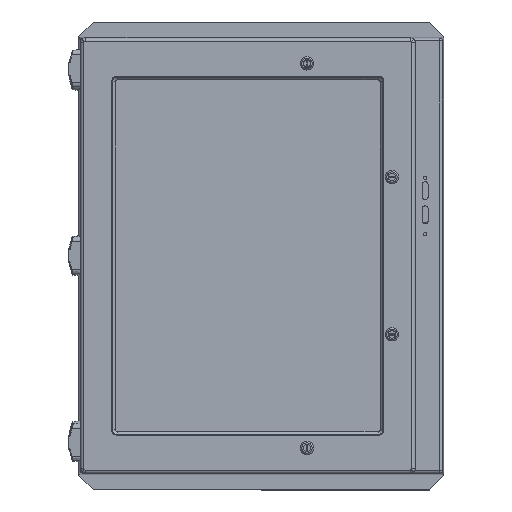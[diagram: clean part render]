
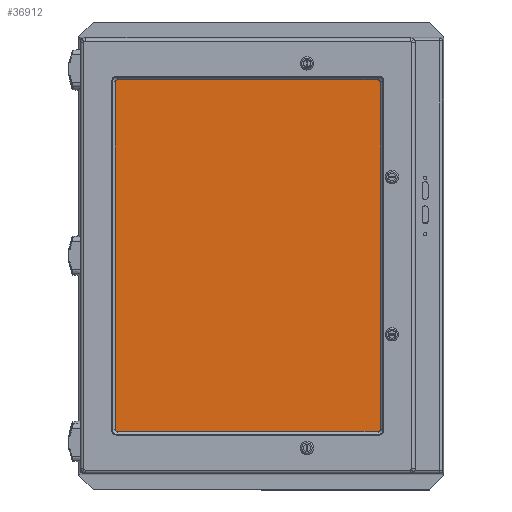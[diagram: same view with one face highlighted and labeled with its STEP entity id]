
A CAD part, top view. The second image highlights one B-rep face of the part: STEP entity #36912.
In plain terms, the highlighted planar face has unit normal (0, 0, 1).
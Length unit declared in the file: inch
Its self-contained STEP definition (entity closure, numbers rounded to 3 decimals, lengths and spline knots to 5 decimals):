
#21120 = DIRECTION ( 'NONE',  ( 0., -1., 0. ) ) ;
#21121 = VECTOR ( 'NONE', #21120, 39.37008 ) ;
#21122 = CARTESIAN_POINT ( 'NONE',  ( -11.03, -14.875, 1. ) ) ;
#21124 = LINE ( 'NONE', #21122, #21121 ) ;
#21125 = CARTESIAN_POINT ( 'NONE',  ( -11.03, -14.3863, 1. ) ) ;
#21214 = DIRECTION ( 'NONE',  ( -1., 0., 0. ) ) ;
#21215 = DIRECTION ( 'NONE',  ( 0., 0., -1. ) ) ;
#21216 = CARTESIAN_POINT ( 'NONE',  ( -11.25, 14.875, 1. ) ) ;
#21218 = AXIS2_PLACEMENT_3D ( 'NONE', #21216, #21215, #21214 ) ;
#21219 = PLANE ( 'NONE',  #21218 ) ;
#21220 = FACE_OUTER_BOUND ( 'NONE', #36913, .T. ) ;
#21221 = DIRECTION ( 'NONE',  ( 1., 0., 0. ) ) ;
#21223 = VECTOR ( 'NONE', #21221, 39.37008 ) ;
#21224 = CARTESIAN_POINT ( 'NONE',  ( -11.25, -14.655, 1. ) ) ;
#21225 = LINE ( 'NONE', #21224, #21223 ) ;
#21226 = CARTESIAN_POINT ( 'NONE',  ( 10.7613, -14.655, 1. ) ) ;
#21241 = CARTESIAN_POINT ( 'NONE',  ( 10.7613, 14.655, 1. ) ) ;
#21257 = DIRECTION ( 'NONE',  ( 0., 1., 0. ) ) ;
#21258 = VECTOR ( 'NONE', #21257, 39.37008 ) ;
#21259 = CARTESIAN_POINT ( 'NONE',  ( 11.03, -14.875, 1. ) ) ;
#21260 = LINE ( 'NONE', #21259, #21258 ) ;
#21261 = CARTESIAN_POINT ( 'NONE',  ( 11.03, 14.3863, 1. ) ) ;
#21273 = CARTESIAN_POINT ( 'NONE',  ( 11.03, -14.3863, 1. ) ) ;
#21280 = CARTESIAN_POINT ( 'NONE',  ( -11.03, 14.3863, 1. ) ) ;
#21291 = DIRECTION ( 'NONE',  ( -1., 0., 0. ) ) ;
#21292 = VECTOR ( 'NONE', #21291, 39.37008 ) ;
#21293 = CARTESIAN_POINT ( 'NONE',  ( -11.25, 14.655, 1. ) ) ;
#21294 = LINE ( 'NONE', #21293, #21292 ) ;
#21295 = CARTESIAN_POINT ( 'NONE',  ( -10.7613, 14.655, 1. ) ) ;
#21323 = CARTESIAN_POINT ( 'NONE',  ( -11.03, -14.3863, 1. ) ) ;
#21324 =( BOUNDED_CURVE ( )  B_SPLINE_CURVE ( 3, ( #21323, #21351, #21350, #21349 ),
 .UNSPECIFIED., .F., .T. ) 
 B_SPLINE_CURVE_WITH_KNOTS ( ( 4, 4 ),
 ( 2.61799, 3.66519 ),
 .UNSPECIFIED. ) 
 CURVE ( )  GEOMETRIC_REPRESENTATION_ITEM ( )  RATIONAL_B_SPLINE_CURVE ( ( 1., 0.911, 0.911, 1. ) ) 
 REPRESENTATION_ITEM ( '' )  );
#21337 = CARTESIAN_POINT ( 'NONE',  ( 10.7613, 14.655, 1. ) ) ;
#21338 = CARTESIAN_POINT ( 'NONE',  ( 10.93165, 14.655, 1. ) ) ;
#21339 = CARTESIAN_POINT ( 'NONE',  ( 11.03, 14.55665, 1. ) ) ;
#21341 = CARTESIAN_POINT ( 'NONE',  ( 11.03, 14.3863, 1. ) ) ;
#21342 =( BOUNDED_CURVE ( )  B_SPLINE_CURVE ( 3, ( #21341, #21339, #21338, #21337 ),
 .UNSPECIFIED., .F., .T. ) 
 B_SPLINE_CURVE_WITH_KNOTS ( ( 4, 4 ),
 ( 2.61799, 3.66519 ),
 .UNSPECIFIED. ) 
 CURVE ( )  GEOMETRIC_REPRESENTATION_ITEM ( )  RATIONAL_B_SPLINE_CURVE ( ( 1., 0.911, 0.911, 1. ) ) 
 REPRESENTATION_ITEM ( '' )  );
#21344 = CARTESIAN_POINT ( 'NONE',  ( 11.03, -14.3863, 1. ) ) ;
#21345 = CARTESIAN_POINT ( 'NONE',  ( 11.03, -14.55665, 1. ) ) ;
#21346 = CARTESIAN_POINT ( 'NONE',  ( 10.93165, -14.655, 1. ) ) ;
#21347 = CARTESIAN_POINT ( 'NONE',  ( 10.7613, -14.655, 1. ) ) ;
#21348 =( BOUNDED_CURVE ( )  B_SPLINE_CURVE ( 3, ( #21347, #21346, #21345, #21344 ),
 .UNSPECIFIED., .F., .T. ) 
 B_SPLINE_CURVE_WITH_KNOTS ( ( 4, 4 ),
 ( 2.61799, 3.66519 ),
 .UNSPECIFIED. ) 
 CURVE ( )  GEOMETRIC_REPRESENTATION_ITEM ( )  RATIONAL_B_SPLINE_CURVE ( ( 1., 0.911, 0.911, 1. ) ) 
 REPRESENTATION_ITEM ( '' )  );
#21349 = CARTESIAN_POINT ( 'NONE',  ( -10.7613, -14.655, 1. ) ) ;
#21350 = CARTESIAN_POINT ( 'NONE',  ( -10.93165, -14.655, 1. ) ) ;
#21351 = CARTESIAN_POINT ( 'NONE',  ( -11.03, -14.55665, 1. ) ) ;
#21365 = CARTESIAN_POINT ( 'NONE',  ( -10.7613, -14.655, 1. ) ) ;
#21368 = CARTESIAN_POINT ( 'NONE',  ( -11.03, 14.3863, 1. ) ) ;
#21369 = CARTESIAN_POINT ( 'NONE',  ( -11.03, 14.55665, 1. ) ) ;
#21370 = CARTESIAN_POINT ( 'NONE',  ( -10.93165, 14.655, 1. ) ) ;
#21371 = CARTESIAN_POINT ( 'NONE',  ( -10.7613, 14.655, 1. ) ) ;
#21372 =( BOUNDED_CURVE ( )  B_SPLINE_CURVE ( 3, ( #21371, #21370, #21369, #21368 ),
 .UNSPECIFIED., .F., .T. ) 
 B_SPLINE_CURVE_WITH_KNOTS ( ( 4, 4 ),
 ( 2.61799, 3.66519 ),
 .UNSPECIFIED. ) 
 CURVE ( )  GEOMETRIC_REPRESENTATION_ITEM ( )  RATIONAL_B_SPLINE_CURVE ( ( 1., 0.911, 0.911, 1. ) ) 
 REPRESENTATION_ITEM ( '' )  );
#36837 = VERTEX_POINT ( 'NONE', #21125 ) ;
#36841 = EDGE_CURVE ( 'NONE', #36969, #36837, #21124, .T. ) ;
#36906 = VERTEX_POINT ( 'NONE', #21226 ) ;
#36909 = EDGE_CURVE ( 'NONE', #37038, #36906, #21225, .T. ) ;
#36912 = ADVANCED_FACE ( 'NONE', ( #21220 ), #21219, .F. ) ;
#36913 = EDGE_LOOP ( 'NONE', ( #36915, #37013, #37017, #37020, #37025, #37027, #37031, #37032 ) ) ;
#36915 = ORIENTED_EDGE ( 'NONE', *, *, #36841, .T. ) ;
#36918 = VERTEX_POINT ( 'NONE', #21273 ) ;
#36931 = VERTEX_POINT ( 'NONE', #21261 ) ;
#36933 = EDGE_CURVE ( 'NONE', #36918, #36931, #21260, .T. ) ;
#36941 = VERTEX_POINT ( 'NONE', #21241 ) ;
#36957 = VERTEX_POINT ( 'NONE', #21295 ) ;
#36960 = EDGE_CURVE ( 'NONE', #36941, #36957, #21294, .T. ) ;
#36969 = VERTEX_POINT ( 'NONE', #21280 ) ;
#37013 = ORIENTED_EDGE ( 'NONE', *, *, #37014, .T. ) ;
#37014 = EDGE_CURVE ( 'NONE', #36837, #37038, #21324, .T. ) ;
#37017 = ORIENTED_EDGE ( 'NONE', *, *, #36909, .T. ) ;
#37020 = ORIENTED_EDGE ( 'NONE', *, *, #37022, .T. ) ;
#37022 = EDGE_CURVE ( 'NONE', #36906, #36918, #21348, .T. ) ;
#37025 = ORIENTED_EDGE ( 'NONE', *, *, #36933, .T. ) ;
#37027 = ORIENTED_EDGE ( 'NONE', *, *, #37029, .T. ) ;
#37029 = EDGE_CURVE ( 'NONE', #36931, #36941, #21342, .T. ) ;
#37031 = ORIENTED_EDGE ( 'NONE', *, *, #36960, .T. ) ;
#37032 = ORIENTED_EDGE ( 'NONE', *, *, #37033, .T. ) ;
#37033 = EDGE_CURVE ( 'NONE', #36957, #36969, #21372, .T. ) ;
#37038 = VERTEX_POINT ( 'NONE', #21365 ) ;
